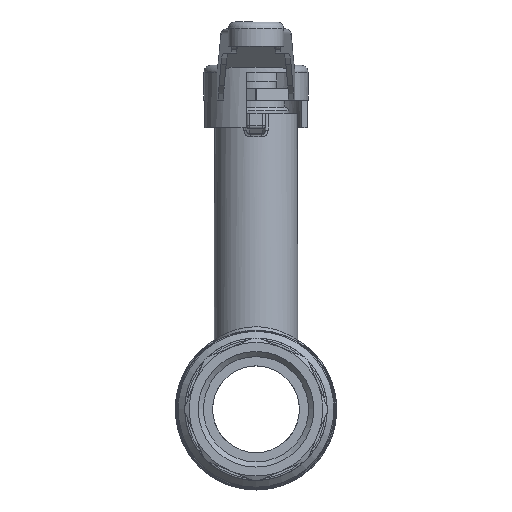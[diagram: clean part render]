
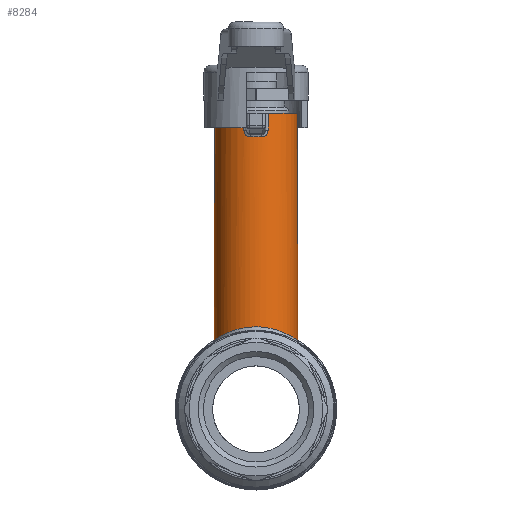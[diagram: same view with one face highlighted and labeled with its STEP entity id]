
A CAD part, left-side view. The second image highlights one B-rep face of the part: STEP entity #8284.
In plain terms, the highlighted cylindrical face has radius 12 mm (diameter 24 mm), a full revolution.
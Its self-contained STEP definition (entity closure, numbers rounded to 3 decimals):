
#93=ELLIPSE('',#9067,12.899,12.);
#410=LINE('',#13510,#964);
#412=LINE('',#13516,#966);
#964=VECTOR('',#10610,4.843);
#966=VECTOR('',#10616,4.843);
#1755=FACE_BOUND('',#2997,.T.);
#1861=B_SPLINE_CURVE_WITH_KNOTS('',3,(#13518,#13519,#13520,#13521,#13522,
#13523),.UNSPECIFIED.,.F.,.F.,(4,1,1,4),(0.,0.091,0.181,
0.317),.UNSPECIFIED.);
#1862=B_SPLINE_CURVE_WITH_KNOTS('',3,(#13526,#13527,#13528,#13529,#13530,
#13531),.UNSPECIFIED.,.F.,.F.,(4,1,1,4),(0.,0.091,0.181,
0.317),.UNSPECIFIED.);
#1863=B_SPLINE_CURVE_WITH_KNOTS('',3,(#13534,#13535,#13536,#13537,#13538,
#13539,#13540,#13541,#13542,#13543,#13544,#13545,#13546,#13547,#13548,#13549),
 .UNSPECIFIED.,.F.,.F.,(4,1,1,1,1,1,1,1,1,1,1,1,1,4),(5.044,
5.488,5.956,6.424,6.892,7.829,
8.141,8.765,8.999,9.701,10.169,
10.637,11.105,11.549),.UNSPECIFIED.);
#1864=B_SPLINE_CURVE_WITH_KNOTS('',3,(#13551,#13552,#13553,#13554),
 .UNSPECIFIED.,.F.,.F.,(4,4),(-0.285,-0.02),
 .UNSPECIFIED.);
#1865=B_SPLINE_CURVE_WITH_KNOTS('',3,(#13556,#13557,#13558,#13559,#13560,
#13561),.UNSPECIFIED.,.F.,.F.,(4,1,1,4),(0.,0.559,
0.931,1.303),.UNSPECIFIED.);
#1866=B_SPLINE_CURVE_WITH_KNOTS('',3,(#13562,#13563,#13564,#13565),
 .UNSPECIFIED.,.F.,.F.,(4,4),(-0.266,0.),.UNSPECIFIED.);
#2091=CYLINDRICAL_SURFACE('',#9066,12.);
#2384=FACE_OUTER_BOUND('',#2996,.T.);
#2996=EDGE_LOOP('',(#6538,#6539,#6540,#6541,#6542,#6543));
#2997=EDGE_LOOP('',(#6544,#6545,#6546,#6547));
#3482=CIRCLE('',#9034,12.);
#3936=VERTEX_POINT('',#13418);
#3937=VERTEX_POINT('',#13420);
#3959=VERTEX_POINT('',#13509);
#3961=VERTEX_POINT('',#13515);
#3962=VERTEX_POINT('',#13517);
#3963=VERTEX_POINT('',#13524);
#3964=VERTEX_POINT('',#13532);
#3965=VERTEX_POINT('',#13533);
#3966=VERTEX_POINT('',#13550);
#3967=VERTEX_POINT('',#13555);
#4862=EDGE_CURVE('',#3937,#3936,#3482,.T.);
#4885=EDGE_CURVE('',#3937,#3959,#410,.T.);
#4888=EDGE_CURVE('',#3961,#3936,#412,.T.);
#4889=EDGE_CURVE('',#3962,#3961,#1861,.T.);
#4890=EDGE_CURVE('',#3963,#3962,#93,.T.);
#4891=EDGE_CURVE('',#3959,#3963,#1862,.T.);
#4892=EDGE_CURVE('',#3964,#3965,#1863,.T.);
#4893=EDGE_CURVE('',#3966,#3964,#1864,.T.);
#4894=EDGE_CURVE('',#3967,#3966,#1865,.T.);
#4895=EDGE_CURVE('',#3965,#3967,#1866,.T.);
#6538=ORIENTED_EDGE('',*,*,#4862,.T.);
#6539=ORIENTED_EDGE('',*,*,#4888,.F.);
#6540=ORIENTED_EDGE('',*,*,#4889,.F.);
#6541=ORIENTED_EDGE('',*,*,#4890,.F.);
#6542=ORIENTED_EDGE('',*,*,#4891,.F.);
#6543=ORIENTED_EDGE('',*,*,#4885,.F.);
#6544=ORIENTED_EDGE('',*,*,#4892,.F.);
#6545=ORIENTED_EDGE('',*,*,#4893,.F.);
#6546=ORIENTED_EDGE('',*,*,#4894,.F.);
#6547=ORIENTED_EDGE('',*,*,#4895,.F.);
#8284=ADVANCED_FACE('',(#2384,#1755),#2091,.T.);
#9034=AXIS2_PLACEMENT_3D('',#13421,#10546,#10547);
#9066=AXIS2_PLACEMENT_3D('',#13514,#10614,#10615);
#9067=AXIS2_PLACEMENT_3D('',#13525,#10617,#10618);
#10546=DIRECTION('center_axis',(0.,0.,-1.));
#10547=DIRECTION('ref_axis',(-1.,0.,0.));
#10610=DIRECTION('',(0.,0.,-1.));
#10614=DIRECTION('center_axis',(0.,0.,1.));
#10615=DIRECTION('ref_axis',(-1.,0.,0.));
#10616=DIRECTION('',(0.,0.,1.));
#10617=DIRECTION('center_axis',(0.367,0.,0.93));
#10618=DIRECTION('ref_axis',(-0.93,0.,0.367));
#13418=CARTESIAN_POINT('',(-11.49,-3.462,85.25));
#13420=CARTESIAN_POINT('',(-11.49,3.462,85.25));
#13421=CARTESIAN_POINT('Origin',(0.,0.,85.25));
#13509=CARTESIAN_POINT('',(-11.49,3.462,80.407));
#13510=CARTESIAN_POINT('',(-11.49,3.462,0.));
#13514=CARTESIAN_POINT('Origin',(0.,0.,0.));
#13515=CARTESIAN_POINT('',(-11.49,-3.462,80.407));
#13516=CARTESIAN_POINT('',(-11.49,-3.462,0.));
#13517=CARTESIAN_POINT('',(-11.891,-1.615,78.437));
#13518=CARTESIAN_POINT('Ctrl Pts',(-11.891,-1.615,
78.437));
#13519=CARTESIAN_POINT('Ctrl Pts',(-11.853,-1.892,
78.422));
#13520=CARTESIAN_POINT('Ctrl Pts',(-11.757,-2.45,
78.529));
#13521=CARTESIAN_POINT('Ctrl Pts',(-11.562,-3.238,79.19));
#13522=CARTESIAN_POINT('Ctrl Pts',(-11.49,-3.462,
79.954));
#13523=CARTESIAN_POINT('Ctrl Pts',(-11.49,-3.462,
80.407));
#13524=CARTESIAN_POINT('',(-11.891,1.615,78.437));
#13525=CARTESIAN_POINT('Origin',(0.,0.,73.748));
#13526=CARTESIAN_POINT('Ctrl Pts',(-11.49,3.462,80.407));
#13527=CARTESIAN_POINT('Ctrl Pts',(-11.49,3.462,80.105));
#13528=CARTESIAN_POINT('Ctrl Pts',(-11.525,3.347,79.494));
#13529=CARTESIAN_POINT('Ctrl Pts',(-11.696,2.729,78.645));
#13530=CARTESIAN_POINT('Ctrl Pts',(-11.835,2.029,78.415));
#13531=CARTESIAN_POINT('Ctrl Pts',(-11.891,1.615,78.437));
#13532=CARTESIAN_POINT('',(9.315,-7.565,22.291));
#13533=CARTESIAN_POINT('',(9.315,7.565,22.291));
#13534=CARTESIAN_POINT('Ctrl Pts',(9.315,-7.565,22.291));
#13535=CARTESIAN_POINT('Ctrl Pts',(8.48,-8.593,21.882));
#13536=CARTESIAN_POINT('Ctrl Pts',(6.44,-10.394,20.968));
#13537=CARTESIAN_POINT('Ctrl Pts',(2.519,-12.008,19.88));
#13538=CARTESIAN_POINT('Ctrl Pts',(-1.939,-12.108,
19.794));
#13539=CARTESIAN_POINT('Ctrl Pts',(-7.369,-10.193,
21.149));
#13540=CARTESIAN_POINT('Ctrl Pts',(-10.862,-6.151,
23.09));
#13541=CARTESIAN_POINT('Ctrl Pts',(-12.266,-0.529,
23.906));
#13542=CARTESIAN_POINT('Ctrl Pts',(-11.812,3.182,23.629));
#13543=CARTESIAN_POINT('Ctrl Pts',(-9.743,7.447,22.476));
#13544=CARTESIAN_POINT('Ctrl Pts',(-6.7,10.421,20.981));
#13545=CARTESIAN_POINT('Ctrl Pts',(-1.932,12.114,19.794));
#13546=CARTESIAN_POINT('Ctrl Pts',(2.522,12.002,19.88));
#13547=CARTESIAN_POINT('Ctrl Pts',(6.433,10.401,20.966));
#13548=CARTESIAN_POINT('Ctrl Pts',(8.483,8.589,21.883));
#13549=CARTESIAN_POINT('Ctrl Pts',(9.315,7.565,22.291));
#13550=CARTESIAN_POINT('',(10.536,-5.744,23.438));
#13551=CARTESIAN_POINT('Ctrl Pts',(10.536,-5.744,23.438));
#13552=CARTESIAN_POINT('Ctrl Pts',(10.155,-6.443,23.237));
#13553=CARTESIAN_POINT('Ctrl Pts',(9.701,-7.088,22.875));
#13554=CARTESIAN_POINT('Ctrl Pts',(9.315,-7.565,22.291));
#13555=CARTESIAN_POINT('',(10.536,5.744,23.438));
#13556=CARTESIAN_POINT('Ctrl Pts',(10.536,5.744,23.438));
#13557=CARTESIAN_POINT('Ctrl Pts',(11.337,4.274,23.861));
#13558=CARTESIAN_POINT('Ctrl Pts',(12.18,1.453,24.357));
#13559=CARTESIAN_POINT('Ctrl Pts',(11.881,-2.608,24.178));
#13560=CARTESIAN_POINT('Ctrl Pts',(11.07,-4.764,23.72));
#13561=CARTESIAN_POINT('Ctrl Pts',(10.536,-5.744,23.438));
#13562=CARTESIAN_POINT('Ctrl Pts',(9.315,7.565,22.291));
#13563=CARTESIAN_POINT('Ctrl Pts',(9.701,7.088,22.875));
#13564=CARTESIAN_POINT('Ctrl Pts',(10.155,6.443,23.237));
#13565=CARTESIAN_POINT('Ctrl Pts',(10.536,5.744,23.438));
